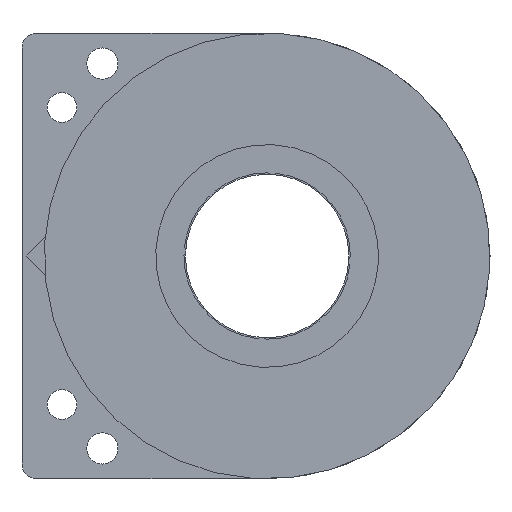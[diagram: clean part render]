
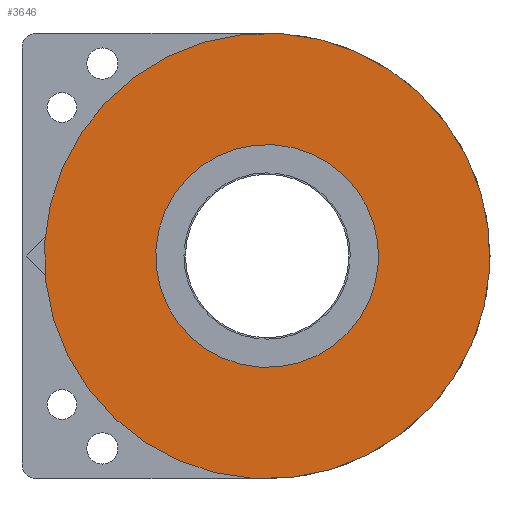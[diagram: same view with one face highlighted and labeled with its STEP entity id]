
A CAD part, front view. The second image highlights one B-rep face of the part: STEP entity #3646.
In plain terms, the highlighted planar face has unit normal (0, -1, 0).
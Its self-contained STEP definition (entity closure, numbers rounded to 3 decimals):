
#938 = DIRECTION ( 'NONE',  ( 0.998, 0., -0.06 ) ) ;
#1031 = FACE_OUTER_BOUND ( 'NONE', #1175, .T. ) ;
#1175 = EDGE_LOOP ( 'NONE', ( #9095 ) ) ;
#1571 = CARTESIAN_POINT ( 'NONE',  ( -7.487, -4.9, 0.449 ) ) ;
#1763 = PLANE ( 'NONE',  #7294 ) ;
#1927 = DIRECTION ( 'NONE',  ( -0.998, 0., 0.06 ) ) ;
#2259 = VERTEX_POINT ( 'NONE', #7507 ) ;
#2442 = CARTESIAN_POINT ( 'NONE',  ( 0., -4.9, 0. ) ) ;
#2456 = DIRECTION ( 'NONE',  ( -0.998, 0., 0.06 ) ) ;
#3176 = DIRECTION ( 'NONE',  ( 0., 1., 0. ) ) ;
#3646 = ADVANCED_FACE ( 'NONE', ( #1031, #4553 ), #1763, .T. ) ;
#3695 = VERTEX_POINT ( 'NONE', #1571 ) ;
#4553 = FACE_BOUND ( 'NONE', #7044, .T. ) ;
#4732 = AXIS2_PLACEMENT_3D ( 'NONE', #5388, #3176, #2456 ) ;
#5388 = CARTESIAN_POINT ( 'NONE',  ( 0., -4.9, 0. ) ) ;
#5418 = ORIENTED_EDGE ( 'NONE', *, *, #6716, .T. ) ;
#6157 = DIRECTION ( 'NONE',  ( 0., -1., 0. ) ) ;
#6268 = CARTESIAN_POINT ( 'NONE',  ( 0., -4.9, 0. ) ) ;
#6716 = EDGE_CURVE ( 'NONE', #3695, #3695, #9201, .T. ) ;
#7044 = EDGE_LOOP ( 'NONE', ( #5418 ) ) ;
#7294 = AXIS2_PLACEMENT_3D ( 'NONE', #2442, #6157, #938 ) ;
#7507 = CARTESIAN_POINT ( 'NONE',  ( -14.973, -4.9, 0.898 ) ) ;
#8858 = CIRCLE ( 'NONE', #9169, 15. ) ;
#9095 = ORIENTED_EDGE ( 'NONE', *, *, #9373, .F. ) ;
#9169 = AXIS2_PLACEMENT_3D ( 'NONE', #6268, #9202, #1927 ) ;
#9201 = CIRCLE ( 'NONE', #4732, 7.5 ) ;
#9202 = DIRECTION ( 'NONE',  ( 0., 1., 0. ) ) ;
#9373 = EDGE_CURVE ( 'NONE', #2259, #2259, #8858, .T. ) ;
